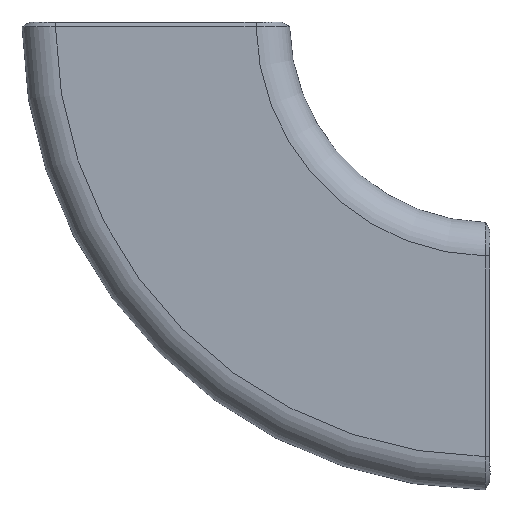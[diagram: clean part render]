
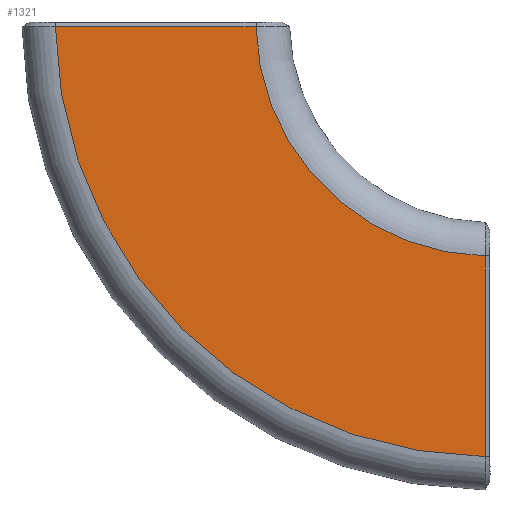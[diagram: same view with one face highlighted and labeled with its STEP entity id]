
A CAD part, left-side view. The second image highlights one B-rep face of the part: STEP entity #1321.
In plain terms, the highlighted planar face has unit normal (-1, 0, 0).
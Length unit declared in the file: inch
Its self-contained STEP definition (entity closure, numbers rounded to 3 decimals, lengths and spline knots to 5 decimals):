
#299=CARTESIAN_POINT('',(-1.,-2.46392,-3.2498));
#300=VERTEX_POINT('',#299);
#367=CARTESIAN_POINT('',(-1.,-2.46392,-1.74963));
#368=VERTEX_POINT('',#367);
#376=CARTESIAN_POINT('',(-1.,-2.46392,-1.74963));
#377=CARTESIAN_POINT('',(-1.,-2.46392,-1.96349));
#378=CARTESIAN_POINT('',(-1.,-2.46392,-2.39295));
#379=CARTESIAN_POINT('',(-1.,-2.46392,-2.89193));
#380=CARTESIAN_POINT('',(-1.,-2.46392,-3.17852));
#381=CARTESIAN_POINT('',(-1.,-2.46392,-3.2498));
#382=B_SPLINE_CURVE_WITH_KNOTS('',3,(#376,#377,#378,#379,#380,#381),.UNSPECIFIED.,.F.,.U.,(4,1,1,4),(-12.79677,-11.16395,-9.53112,-8.98685),.UNSPECIFIED.);
#383=EDGE_CURVE('',#368,#300,#382,.T.);
#595=CARTESIAN_POINT('',(-1.,-0.75036,-0.03534));
#596=VERTEX_POINT('',#595);
#612=CARTESIAN_POINT('',(-1.,-2.5,0.0));
#613=DIRECTION('',(-1.0,0.0,0.0));
#614=DIRECTION('',(0.0,1.0,0.0));
#615=AXIS2_PLACEMENT_3D('',#612,#613,#614);
#616=CIRCLE('',#615,1.75);
#617=EDGE_CURVE('',#596,#368,#616,.T.);
#908=CARTESIAN_POINT('',(-1.,0.74981,-0.03534));
#909=VERTEX_POINT('',#908);
#997=CARTESIAN_POINT('',(-1.0,0.74981,-0.03534));
#998=CARTESIAN_POINT('',(-1.0,0.67853,-0.03534));
#999=CARTESIAN_POINT('',(-1.,0.39205,-0.03534));
#1000=CARTESIAN_POINT('',(-1.,-0.10692,-0.03534));
#1001=CARTESIAN_POINT('',(-1.,-0.5365,-0.03534));
#1002=CARTESIAN_POINT('',(-1.,-0.75036,-0.03534));
#1003=B_SPLINE_CURVE_WITH_KNOTS('',3,(#997,#998,#999,#1000,#1001,#1002),.UNSPECIFIED.,.F.,.U.,(4,1,1,4),(4.55834,5.10262,6.73543,8.36825),.UNSPECIFIED.);
#1004=EDGE_CURVE('',#909,#596,#1003,.T.);
#1304=CARTESIAN_POINT('',(-1.,0.0,0.0));
#1305=DIRECTION('',(-1.0,0.0,0.0));
#1306=DIRECTION('',(0.0,0.0,1.0));
#1307=AXIS2_PLACEMENT_3D('',#1304,#1305,#1306);
#1308=PLANE('',#1307);
#1309=ORIENTED_EDGE('',*,*,#383,.F.);
#1310=ORIENTED_EDGE('',*,*,#617,.F.);
#1311=ORIENTED_EDGE('',*,*,#1004,.F.);
#1312=CARTESIAN_POINT('',(-1.,-2.5,0.0));
#1313=DIRECTION('',(-1.0,0.0,0.0));
#1314=DIRECTION('',(0.0,1.0,0.0));
#1315=AXIS2_PLACEMENT_3D('',#1312,#1313,#1314);
#1316=CIRCLE('',#1315,3.25);
#1317=EDGE_CURVE('',#909,#300,#1316,.T.);
#1318=ORIENTED_EDGE('',*,*,#1317,.T.);
#1319=EDGE_LOOP('',(#1309,#1310,#1311,#1318));
#1320=FACE_OUTER_BOUND('',#1319,.T.);
#1321=ADVANCED_FACE('',(#1320),#1308,.T.);
